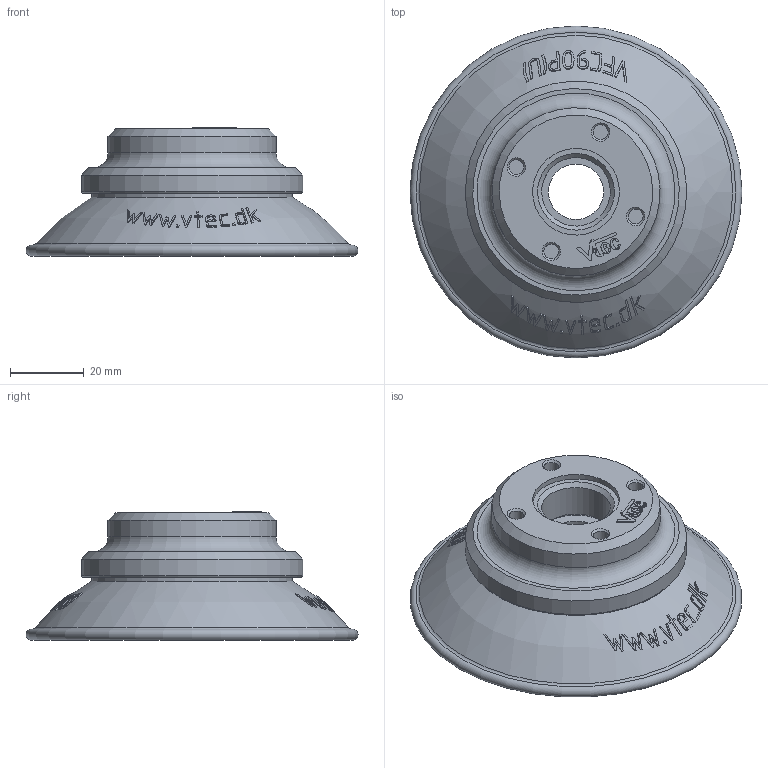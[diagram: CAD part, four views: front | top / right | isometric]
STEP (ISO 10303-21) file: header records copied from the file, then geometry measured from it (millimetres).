
FILE_DESCRIPTION( ( 'STEP AP203' ), '1' );
FILE_NAME( 'C:/Documents and Settings/Owner/官帕 拳搁/3D/Vacuum Pad/VFC series/VFC90-12F.stp', '2006-04-25T05:12:12', ( ' ' ), ( ' ' ), 'XStep 1.0', ' ', ' ' );
FILE_SCHEMA( ( 'CONFIG_CONTROL_DESIGN) ( )' ) );
Length unit declared in the file: metre
Products named in the file (3): Assem1; 1; 2
Bounding box: 90 x 90 x 34.8 mm (x, y, z)
Volume: 108235.1 mm3; surface area: 57111.1 mm2
Topology: 4 solids, 4 shells, 776 faces, 1890 edges, 1254 vertices
Faces by surface type: bspline 300, plane 180, cylinder 152, sphere 106, cone 20, torus 14, extrusion 4
Full cylindrical faces by diameter (mm): 0.791 x2, 4 x16, 6.7 x8, 15 x2, 18.6 x2, 23.5 x2, 45.6 x2, 54.5 x2, 55 x2, 60 x2
Entity records: 20374 total; most frequent: CARTESIAN_POINT 12239, ORIENTED_EDGE 1778, DIRECTION 1258, EDGE_CURVE 889, VERTEX_POINT 615, EDGE_LOOP 510, AXIS2_PLACEMENT_3D 488, FACE_OUTER_BOUND 421
